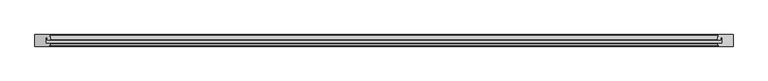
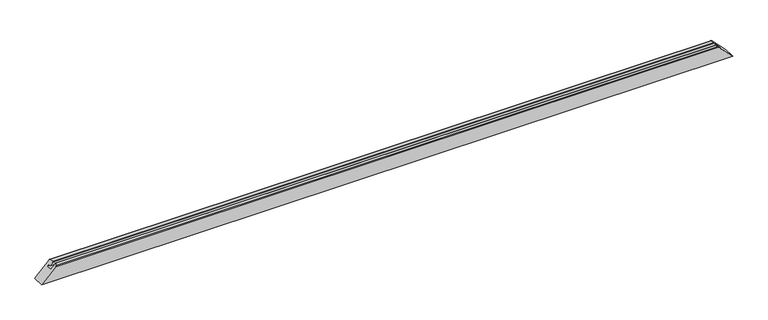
"""IFC4 building model written with IfcOpenShell, lengths in millimetres: proxy geometry, Weiku - Montante - Caixilho fixo 02.2.01.005 : Weiku - Montante - Caixilho fixo 02.2.01.005."""

import ifcopenshell
import ifcopenshell.guid

model = None  # the IFC model being written
_history = None  # IfcOwnerHistory: only IFC2X3 demands one
_inside = {}  # id of a spatial element -> (the spatial element, [elements in it])
_under = {}  # id of a project, library or spatial element -> (it, [spatial elements below it])
_declared = {}  # id of a project -> (the project, [libraries it declares])
_typed = {}  # id of a type object -> (the type object, [elements of that type])
_made_of = {}  # id of a material, layer set ... -> (it, [elements and type objects made of it])


def new_model(schema):
    """Start an empty IFC model of exactly this schema.

    Asked for "IFC4X3", IfcOpenShell would pick the latest addendum, in which some entities
    have other attributes; the version numbers below select the first issue.
    IFC2X3 requires an IfcOwnerHistory on every rooted entity: one is made here for all.
    """
    global model, _history
    if schema == "IFC4X3":
        model = ifcopenshell.file(schema_version=(4, 3, 0, 0))
    else:
        model = ifcopenshell.file(schema=schema)
    _inside.clear()
    _under.clear()
    _declared.clear()
    _typed.clear()
    _made_of.clear()
    _history = None
    if model.schema == "IFC2X3":
        org = make("IfcOrganization", Name="unknown")
        user = make(
            "IfcPersonAndOrganization",
            ThePerson=make("IfcPerson", FamilyName="unknown"),
            TheOrganization=org,
        )
        app = make(
            "IfcApplication",
            ApplicationDeveloper=org,
            Version="unknown",
            ApplicationFullName="unknown",
            ApplicationIdentifier="unknown",
        )
        _history = make(
            "IfcOwnerHistory",
            OwningUser=user,
            OwningApplication=app,
            ChangeAction="ADDED",
            CreationDate=0,
        )
    return model


def make(cls, **values):
    """One entity of the class cls with the attributes given. An attribute that is None is left unset."""
    return model.create_entity(
        cls, **{name: value for name, value in values.items() if value is not None}
    )


def rooted(cls, **values):
    """An entity with a GlobalId (a new one), such as an element, a storey or a relation."""
    return make(cls, GlobalId=ifcopenshell.guid.new(), OwnerHistory=_history, **values)


def si_unit(unit_type, name, prefix=None):
    """IfcSIUnit, for example si_unit("LENGTHUNIT", "METRE", prefix="MILLI")."""
    return make("IfcSIUnit", UnitType=unit_type, Prefix=prefix, Name=name)


def assignment(units):
    """IfcUnitAssignment: the units of a project."""
    return None if units is None else make("IfcUnitAssignment", Units=units)


def point(xyz):
    """IfcCartesianPoint."""
    return None if xyz is None else make("IfcCartesianPoint", Coordinates=xyz)


def direction(xyz):
    """IfcDirection."""
    return None if xyz is None else make("IfcDirection", DirectionRatios=xyz)


def frame(location, z_axis=None, x_axis=None):
    """IfcAxis2Placement3D, a coordinate frame: its origin and axes. An axis left out is left unset."""
    return make(
        "IfcAxis2Placement3D",
        Location=point(location),
        Axis=direction(z_axis),
        RefDirection=direction(x_axis),
    )


def origin():
    """The frame at (0, 0, 0) with its axes left unset."""
    return frame((0.0, 0.0, 0.0))


def place(relative_to, where):
    """IfcLocalPlacement: puts the frame where relative to a parent placement (None: the world)."""
    return make(
        "IfcLocalPlacement", PlacementRelTo=relative_to, RelativePlacement=where
    )


def context(
    kind, dimensions, precision=None, world=None, true_north=None, identifier=None
):
    """IfcGeometricRepresentationContext, for example the 3D "Model" context."""
    return make(
        "IfcGeometricRepresentationContext",
        ContextIdentifier=identifier,
        ContextType=kind,
        CoordinateSpaceDimension=dimensions,
        Precision=precision,
        WorldCoordinateSystem=world,
        TrueNorth=true_north,
    )


def project(units=None, contexts=None):
    """IfcProject with its units and contexts."""
    return rooted(
        "IfcProject",
        Name="project",
        RepresentationContexts=contexts,
        UnitsInContext=assignment(units),
    )


def spatial(cls, under=None, at=None, **own):
    """A site, building, storey or space (cls), placed at a placement, below another one or the project."""
    s = rooted(cls, ObjectPlacement=at, **own)
    if under is not None:
        _under.setdefault(under.id(), (under, []))[1].append(s)
    return s


def ellipse_curve(where, semi_axis1, semi_axis2):
    """IfcEllipse in the frame where."""
    return make(
        "IfcEllipse", Position=where, SemiAxis1=semi_axis1, SemiAxis2=semi_axis2
    )


def shape(context_of_items, identifier, shape_type, items):
    """IfcShapeRepresentation: the items that make up one representation, for example the "Body"."""
    return make(
        "IfcShapeRepresentation",
        ContextOfItems=context_of_items,
        RepresentationIdentifier=identifier,
        RepresentationType=shape_type,
        Items=items,
    )


def source(mapping_origin, context_of_items, identifier, shape_type, items):
    """IfcRepresentationMap: a shape defined once, which mapped items show again and again."""
    return make(
        "IfcRepresentationMap",
        MappingOrigin=mapping_origin,
        MappedRepresentation=shape(context_of_items, identifier, shape_type, items),
    )


def transform(
    local_origin,
    x_axis=None,
    y_axis=None,
    z_axis=None,
    scale=None,
    scale2=None,
    scale3=None,
    uniform=True,
):
    """IfcCartesianTransformationOperator3D, or its non-uniform kind. x_axis, y_axis, z_axis: its Axis1, 2, 3."""
    if uniform:
        return make(
            "IfcCartesianTransformationOperator3D",
            Axis1=direction(x_axis),
            Axis2=direction(y_axis),
            LocalOrigin=point(local_origin),
            Scale=scale,
            Axis3=direction(z_axis),
        )
    return make(
        "IfcCartesianTransformationOperator3DnonUniform",
        Axis1=direction(x_axis),
        Axis2=direction(y_axis),
        LocalOrigin=point(local_origin),
        Scale=scale,
        Axis3=direction(z_axis),
        Scale2=scale2,
        Scale3=scale3,
    )


def mapped(mapping_source, mapping_target):
    """IfcMappedItem: shows the shape of a source again, moved by a transform."""
    return make(
        "IfcMappedItem", MappingSource=mapping_source, MappingTarget=mapping_target
    )


def made_of(thing, what):
    """Note that an element or type object is made of a material, layer set ...; save() writes the relation."""
    if what is not None:
        _made_of.setdefault(what.id(), (what, []))[1].append(thing)
    return thing


def element(
    cls,
    number,
    at=None,
    inside=None,
    cuts=None,
    type_object=None,
    material=None,
    context=None,
    identifier="Body",
    shape_type=None,
    held_by="IfcProductDefinitionShape",
    body=None,
    shapes=None,
    **own,
):
    """One element of the class cls, such as IfcWall. Its Tag is "e" and its number.

    at: its placement. inside: the storey or other place that contains it. cuts: it is an
    opening in that element (IfcRelVoidsElement). A single representation is given by context,
    identifier, shape_type and body (its items); several are given by shapes. held_by: the class
    of the entity that holds the representations. save() writes the other relations.
    """
    e = rooted(cls, Tag="e%d" % number, ObjectPlacement=at, **own)
    if body is not None:
        shapes = [shape(context, identifier, shape_type, body)]
    if shapes is not None:
        e.Representation = make(held_by, Representations=shapes)
    if inside is not None:
        _inside.setdefault(inside.id(), (inside, []))[1].append(e)
    if cuts is not None:
        rooted(
            "IfcRelVoidsElement", RelatingBuildingElement=cuts, RelatedOpeningElement=e
        )
    if type_object is not None:
        _typed.setdefault(type_object.id(), (type_object, []))[1].append(e)
    return made_of(e, material)


def aggregate(whole, parts):
    """IfcRelAggregates: a whole, such as a stair, and the parts it consists of."""
    return rooted("IfcRelAggregates", RelatingObject=whole, RelatedObjects=parts)


def save(model, path):
    """Write the relations noted so far, then the file.

    IfcRelAggregates (storeys below a building ...), IfcRelContainedInSpatialStructure (elements
    in a storey), IfcRelDefinesByType, IfcRelAssociatesMaterial and IfcRelDeclares: one each for
    every whole, place, type object, material and project.
    """
    for whole, parts in _under.values():
        aggregate(whole, parts)
    for where, things in _inside.values():
        rooted(
            "IfcRelContainedInSpatialStructure",
            RelatedElements=things,
            RelatingStructure=where,
        )
    for kind, things in _typed.values():
        rooted("IfcRelDefinesByType", RelatedObjects=things, RelatingType=kind)
    for what, things in _made_of.values():
        rooted("IfcRelAssociatesMaterial", RelatedObjects=things, RelatingMaterial=what)
    for by, libraries in _declared.values():
        rooted("IfcRelDeclares", RelatingContext=by, RelatedDefinitions=libraries)
    model.write(path)


def plane_surface(at):
    """IfcPlane: the flat surface through the origin of the frame at, square to its z axis."""
    return make("IfcPlane", Position=at)


def cylinder_surface(at, radius):
    """IfcCylindricalSurface: all points at the distance radius from the z axis of the frame at."""
    return make("IfcCylindricalSurface", Position=at, Radius=radius)


def advanced_brep(points, edges, surfaces, faces):
    """IfcAdvancedBrep: a solid bounded by faces that lie on surfaces and meet in shared edges.

    An edge is (start, end): straight between two places in points (the first is 0);
    or (start, end, curve); or (start, end, curve, False) where it runs against its curve.
    A face is (place in surfaces, loops), or (place, loops, False) where it looks against
    its surface's normal. A loop lists edges by number (the first is 1), with a minus sign
    where the edge is run from its end to its start. The first loop is the outer one.
    """
    corners = [point(p) for p in points]
    vertices = [make("IfcVertexPoint", VertexGeometry=c) for c in corners]
    made = []
    for start, end, *more in edges:
        made.append(
            make(
                "IfcEdgeCurve",
                EdgeStart=vertices[start],
                EdgeEnd=vertices[end],
                EdgeGeometry=more[0] if more else make("IfcPolyline", Points=[corners[start], corners[end]]),
                SameSense=more[1] if len(more) > 1 else True,
            )
        )
    hull = []
    for where, loops, *sense in faces:
        bounds = []
        for j, loop in enumerate(loops):
            ring = [make("IfcOrientedEdge", EdgeElement=made[abs(k) - 1], Orientation=k > 0) for k in loop]
            bounds.append(
                make(
                    "IfcFaceOuterBound" if j == 0 else "IfcFaceBound",
                    Bound=make("IfcEdgeLoop", EdgeList=ring),
                    Orientation=True,
                )
            )
        hull.append(make("IfcAdvancedFace", Bounds=bounds, FaceSurface=surfaces[where], SameSense=sense[0] if sense else True))
    return make("IfcAdvancedBrep", Outer=make("IfcClosedShell", CfsFaces=hull))


def generic_models_3d97f5c9(model_context):
    return source(origin(), model_context, "Body", "AdvancedBrep", [
        advanced_brep(
        [(-1430.618227, -38.5070552, 66.881773), (-1431.3909676, -37.5, 66.1090324), (-1451.5, -37.5, 46.0), (-1451.5, -12.5, 46.0), (-1445.5009154, -12.5, 51.9990846), (-1445.5009154, -23.5, 51.9990846), (-1431.4865015, -23.5, 66.0134985), (-1430.4998537, -22.3371317, 67.0001463), (-1434.0489094, -0.8371317, 63.4510906), (-1435.0355572, 0.0, 62.4644428), (-1497.5, 0.0, 0.0), (-1497.5, -50.0, 0.0), (-1435.9997332, -50.0, 61.5002668), (-1433.1019557, -47.7764571, 64.3980443), (1433.1019557, -47.7764571, 64.3980443), (1435.9997332, -50.0, 61.5002668), (1497.5, -50.0, 0.0), (1497.5, 0.0, 0.0), (1435.0355572, 0.0, 62.4644428), (1434.0489094, -0.8371317, 63.4510906), (1430.4998537, -22.3371317, 67.0001463), (1431.4865015, -23.5, 66.0134985), (1445.5009154, -23.5, 51.9990846), (1445.5009154, -12.5, 51.9990846), (1451.5, -12.5, 46.0), (1451.5, -37.5, 46.0), (1431.3909676, -37.5, 66.1090324), (1430.618227, -38.5070552, 66.881773)],
        [
            (0, 1, ellipse_curve(frame((-1431.3909676, -38.3, 66.1090324), z_axis=(-0.7071067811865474, 0.0, 0.7071067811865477), x_axis=(-0.7071067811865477, 0.0, -0.7071067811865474)), 1.1313708, 0.8)),
            (1, 2),
            (2, 3),
            (3, 4),
            (4, 5),
            (5, 6),
            (6, 7, ellipse_curve(frame((-1431.4865015, -22.5, 66.0134985), z_axis=(-0.7071067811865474, 0.0, 0.7071067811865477), x_axis=(-0.7071067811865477, 0.0, -0.7071067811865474)), 1.4142136, 1.0)),
            (7, 8),
            (8, 9, ellipse_curve(frame((-1435.0355572, -1.0, 62.4644428), z_axis=(-0.7071067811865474, 0.0, 0.7071067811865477), x_axis=(-0.7071067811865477, 0.0, -0.7071067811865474)), 1.4142136, 1.0)),
            (9, 10),
            (10, 11),
            (11, 12),
            (12, 13, ellipse_curve(frame((-1435.9997332, -47.0, 61.5002668), z_axis=(-0.7071067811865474, 0.0, 0.7071067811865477), x_axis=(-0.7071067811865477, 0.0, -0.7071067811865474)), 4.2426407, 3.0)),
            (13, 0),
            (14, 15, ellipse_curve(frame((1435.9997332, -47.0, 61.5002668), z_axis=(0.7071067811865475, 0.0, 0.7071067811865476), x_axis=(-0.7071067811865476, 0.0, 0.7071067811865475)), 4.2426407, 3.0)),
            (15, 16),
            (16, 17),
            (17, 18),
            (18, 19, ellipse_curve(frame((1435.0355572, -1.0, 62.4644428), z_axis=(0.7071067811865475, 0.0, 0.7071067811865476), x_axis=(-0.7071067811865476, 0.0, 0.7071067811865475)), 1.4142136, 1.0)),
            (19, 20),
            (20, 21, ellipse_curve(frame((1431.4865015, -22.5, 66.0134985), z_axis=(0.7071067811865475, 0.0, 0.7071067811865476), x_axis=(-0.7071067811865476, 0.0, 0.7071067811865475)), 1.4142136, 1.0)),
            (21, 22),
            (22, 23),
            (23, 24),
            (24, 25),
            (25, 26),
            (26, 27, ellipse_curve(frame((1431.3909676, -38.3, 66.1090324), z_axis=(0.7071067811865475, 0.0, 0.7071067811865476), x_axis=(-0.7071067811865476, 0.0, 0.7071067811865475)), 1.1313708, 0.8)),
            (27, 14),
            (13, 14),
            (27, 0),
            (12, 15),
            (11, 16),
            (10, 17),
            (9, 18),
            (8, 19),
            (7, 20),
            (6, 21),
            (5, 22),
            (4, 23),
            (3, 24),
            (2, 25),
            (1, 26),
        ],
        [
            plane_surface(frame((-1567.5, 15.0, -70.0), z_axis=(-0.7071067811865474, 0.0, 0.7071067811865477), x_axis=(0.0, -1.0, 0.0))),
            plane_surface(frame((1427.5, 15.0, 70.0), z_axis=(0.7071067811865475, 0.0, 0.7071067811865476), x_axis=(0.0, -1.0, 0.0))),
            plane_surface(frame((-1497.5, -38.5070552, 66.881773), z_axis=(0.0, -0.2588190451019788, 0.9659258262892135), x_axis=(1.0, 0.0, 0.0))),
            cylinder_surface(frame((-1497.5, -47.0, 61.5002668), z_axis=(-1.0, 0.0, 0.0), x_axis=(0.0, 1.0, 0.0)), 3.0),
            plane_surface(frame((-1497.5, -50.0, 61.5002668), z_axis=(0.0, -1.0, 0.0), x_axis=(1.0, 0.0, 0.0))),
            plane_surface(frame((-1497.5, -50.0, 0.0), z_axis=(0.0, 0.0, -1.0), x_axis=(1.0, 0.0, 0.0))),
            plane_surface(frame((-1497.5, 0.0, 0.0), z_axis=(0.0, 1.0, 0.0), x_axis=(1.0, 0.0, 0.0))),
            cylinder_surface(frame((-1497.5, -1.0, 62.4644428), z_axis=(-1.0, 0.0, 0.0), x_axis=(0.0, -1.0, 0.0)), 1.0),
            plane_surface(frame((-1497.5, -0.8371317, 63.4510906), z_axis=(0.0, 0.16286828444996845, 0.9866478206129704), x_axis=(1.0, 0.0, 0.0))),
            cylinder_surface(frame((-1497.5, -22.5, 66.0134985), z_axis=(-1.0, 0.0, 0.0), x_axis=(0.0, -1.0, 0.0)), 1.0),
            plane_surface(frame((-1497.5, -23.5, 66.0134985), z_axis=(0.0, -1.0, 0.0), x_axis=(1.0, 0.0, 0.0))),
            plane_surface(frame((-1497.5, -23.5, 51.9990846), z_axis=(0.0, 0.0, -1.0), x_axis=(1.0, 0.0, 0.0))),
            plane_surface(frame((-1497.5, -12.5, 51.9990846), z_axis=(0.0, -1.0, 0.0), x_axis=(1.0, 0.0, 0.0))),
            plane_surface(frame((-1497.5, -12.5, 46.0), z_axis=(0.0, 0.0, 1.0), x_axis=(1.0, 0.0, 0.0))),
            plane_surface(frame((-1497.5, -37.5, 46.0), z_axis=(0.0, 1.0, 0.0), x_axis=(1.0, 0.0, 0.0))),
            cylinder_surface(frame((-1497.5, -38.3, 66.1090324), z_axis=(-1.0, 0.0, 0.0), x_axis=(0.0, 1.0, 0.0)), 0.8),
        ],
        [
            (0, [[1, 2, 3, 4, 5, 6, 7, 8, 9, 10, 11, 12, 13, 14]]),
            (1, [[15, 16, 17, 18, 19, 20, 21, 22, 23, 24, 25, 26, 27, 28]]),
            (2, [[29, -28, 30, -14]]),
            (3, [[31, -15, -29, -13]]),
            (4, [[-16, -31, -12, 32]]),
            (5, [[-11, 33, -17, -32]]),
            (6, [[-10, 34, -18, -33]]),
            (7, [[35, -19, -34, -9]]),
            (8, [[36, -20, -35, -8]]),
            (9, [[37, -21, -36, -7]]),
            (10, [[38, -22, -37, -6]]),
            (11, [[39, -23, -38, -5]]),
            (12, [[40, -24, -39, -4]]),
            (13, [[41, -25, -40, -3]]),
            (14, [[42, -26, -41, -2]]),
            (15, [[-30, -27, -42, -1]]),
        ],
    ),
    ])


if __name__ == "__main__":
    model = new_model("IFC4")
    model_context = context("Model", 3, world=origin())
    ifc_project = project(units=[si_unit("LENGTHUNIT", "METRE", prefix="MILLI")], contexts=[model_context])
    site = spatial("IfcSite", under=ifc_project)
    building = spatial("IfcBuilding", under=site)
    placement = place(None, origin())
    generic_models_shape = generic_models_3d97f5c9(model_context)
    element("IfcBuildingElementProxy", 1, Name="Weiku - Montante - Caixilho fixo 02.2.01.005 : Weiku - Montante - Caixilho fixo 02.2.01.005", ObjectType="Weiku - Montante - Caixilho fixo 02.2.01.005 : Weiku - Montante - Caixilho fixo 02.2.01.005", at=placement, inside=building, context=model_context, shape_type="MappedRepresentation", body=[
        mapped(generic_models_shape, transform((0.0, 0.0, 0.0), x_axis=(1.0, 0.0, 0.0), y_axis=(0.0, 1.0, 0.0), z_axis=(0.0, 0.0, 1.0))),
    ])
    save(model, "model.ifc")
